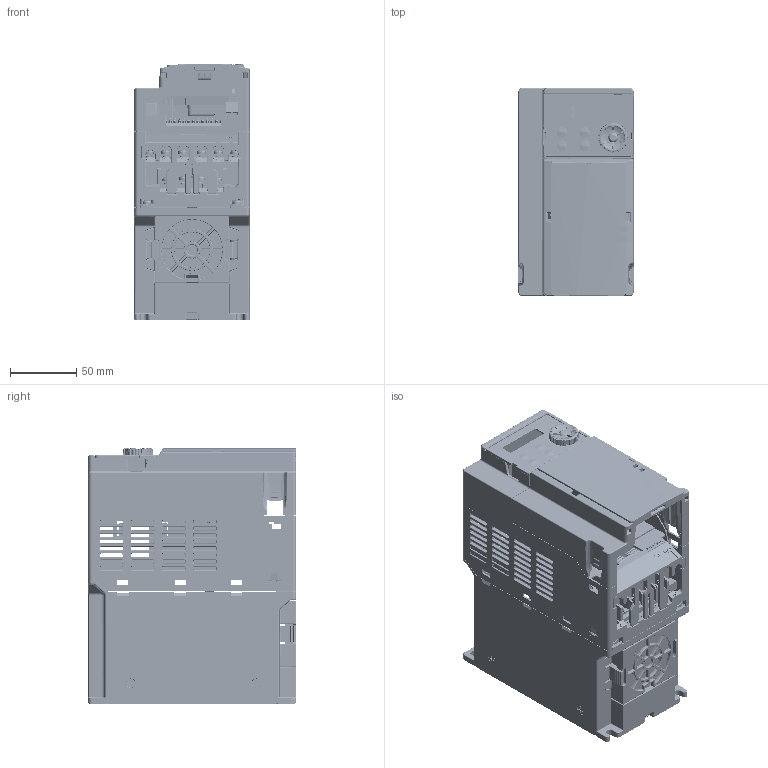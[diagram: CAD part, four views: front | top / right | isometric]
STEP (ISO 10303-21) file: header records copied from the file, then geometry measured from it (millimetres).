
FILE_DESCRIPTION((''),'2;1');
FILE_NAME('ASM0001_ASM_1_ASM','2023-12-27T16:06:12',('EDWARD.LIAO'),(''),'CREO PARAMETRIC BY PTC INC, 2022162','CREO PARAMETRIC BY PTC INC, 2022162','');
FILE_SCHEMA(('AUTOMOTIVE_DESIGN { 1 0 10303 214 1 1 1 1 }'));
Length unit declared in the file: millimetre
Products named in the file (173): VFD-MH300-C2-PD-3D02_15_1; VFD-MH300-C2-PD-3D02_22_1; VFD-MH300-C2-PD-3D02_23_1; VFD-MH300-C2-PD-3D02_24_1; VFD-MH300-C2-PD-3D02_25_1; VFD-MH300-C2-PD-3D02_26_1; VFD-MH300-C2-PD-3D02_27_1; VFD-MH300-C2-PD-3D02_28_1; VFD-MH300-C2-PD-3D02_29_1; VFD-MH300-C2-PD-3D02_30_1; VFD-MH300-C2-PD-3D02_31_1; VFD-MH300-C2-PD-3D02_32_1; VFD-MH300-C2-PD-3D02_33_1; VFD-MH300-C2-PD-3D02_35_1; VFD-MH300-C2-PD-3D02_37_1; VFD-MH300-C2-PD-3D02_39_1; VFD-MH300-C2-PD-3D02_41_1; VFD-MH300-C2-PD-3D02_43_1; VFD-MH300-C2-PD-3D02_45_1; VFD-MH300-C2-PD-3D02_46_1; VFD-MH300-C2-PD-3D02_47_1; VFD-MH300-C2-PD-3D02_48_1; VFD-MH300-C2-PD-3D02_49_1; VFD-MH300-C2-PD-3D02_51_1; VFD-MH300-C2-PD-3D02_52_1; CAD0000911851; CAD0000911852; CAD0000911457_1_1; CAD0000911457_2_1; CAD0000911457_3_1; CAD0000911457_4_1; CAD0000911457_5_1; CAD0000911457_6_1; CAD0000911457_7_1; CAD0000911457_8_1; CAD0000911457_9_1; CAD0000911457_10_1; CAD0000911457_11_1; CAD0000911457_12_1; CAD0000911457_13_1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
Assembly tree (172 placements, depth 4):
  ASM0001_ASM_1_ASM
    VFD-MH300-C2-PD-3D02_15_1
    VFD-MH300-C2-PD-3D02_22_1
    VFD-MH300-C2-PD-3D02_23_1
    VFD-MH300-C2-PD-3D02_24_1
    VFD-MH300-C2-PD-3D02_25_1
    VFD-MH300-C2-PD-3D02_26_1
    VFD-MH300-C2-PD-3D02_27_1
    VFD-MH300-C2-PD-3D02_28_1
    VFD-MH300-C2-PD-3D02_29_1
    VFD-MH300-C2-PD-3D02_30_1
    VFD-MH300-C2-PD-3D02_31_1
    VFD-MH300-C2-PD-3D02_32_1
    VFD-MH300-C2-PD-3D02_33_1
    VFD-MH300-C2-PD-3D02_35_1
    VFD-MH300-C2-PD-3D02_37_1
    VFD-MH300-C2-PD-3D02_39_1
    VFD-MH300-C2-PD-3D02_41_1
    VFD-MH300-C2-PD-3D02_43_1
    VFD-MH300-C2-PD-3D02_45_1
    VFD-MH300-C2-PD-3D02_46_1
    VFD-MH300-C2-PD-3D02_47_1
    VFD-MH300-C2-PD-3D02_48_1
    VFD-MH300-C2-PD-3D02_49_1
    VFD-MH300-C2-PD-3D02_51_1
    VFD-MH300-C2-PD-3D02_52_1
    CAD0000911851
    CAD0000911852
    MH-CTR_ASM
      CAD0000911459_ASM_1_ASM
        CAD0000911457_1_1
        CAD0000911457_2_1
        CAD0000911457_3_1
        CAD0000911457_4_1
        CAD0000911457_5_1
        CAD0000911457_6_1
        CAD0000911457_7_1
        CAD0000911457_8_1
        CAD0000911457_9_1
        CAD0000911457_10_1
        CAD0000911457_11_1
        CAD0000911457_12_1
        CAD0000911457_13_1
        CAD0000911457_14_1
        CAD0000911457_15_1
        CAD0000911457_16_1
        CAD0000911457_17_1
        CAD0000911457_18_1
        CAD0000911457_19_1
        CAD0000911457_20_1
        CAD0000911457_21_1
        CAD0000911457_22_1
        CAD0000911457_23_1
        CAD0000911457_24_1
        CAD0000911457_25_1
        CAD0000911457_26_1
        CAD0000911457_27_1
        CAD0000911457_28_1
        CAD0000911457_29_1
        CAD0000911457_30_1
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Bounding box: 87.6 x 157.3 x 194 mm (x, y, z)
Volume: 284198.6 mm3; surface area: 348879.7 mm2
Topology: 168 solids, 176 shells, 21647 faces, 59930 edges, 38354 vertices
Faces by surface type: plane 12852, cylinder 5663, bspline 1125, cone 742, torus 703, extrusion 417, sphere 143, revolution 2
Entity records: 941421 total; most frequent: CARTESIAN_POINT 219965, ORIENTED_EDGE 118313, DIRECTION 107285, EDGE_CURVE 59419, VECTOR 41744, LINE 41327, PRESENTATION_STYLE_ASSIGNMENT 38682, VERTEX_POINT 38050
